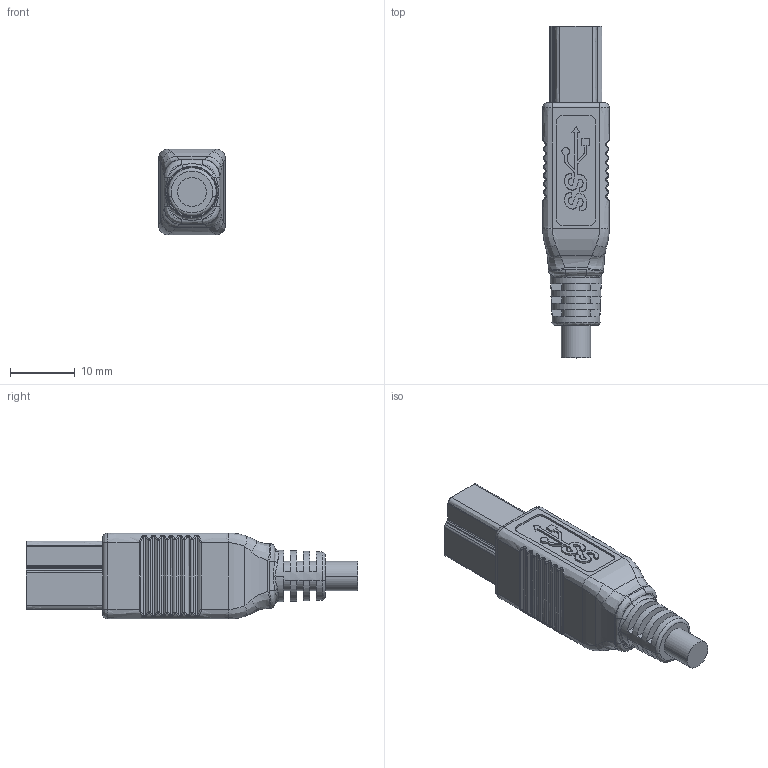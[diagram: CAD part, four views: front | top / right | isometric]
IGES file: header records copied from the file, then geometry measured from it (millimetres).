
Start section:  PTC IGES file: usb30-b.igs
Global section: file name: usb30-b.igs; native system: Creo Parametric by Parametric Technology Corporation; preprocessor: 2012130; author: LINOLIU; organization: Unknown; date: 20130401.202507; units: millimetre
Bounding box: 10.3 x 51.35 x 13.3 mm (x, y, z)
Volume: 4163.9 mm3; surface area: 2704.5 mm2
Topology: 1 solids, 1 shells, 636 faces, 1607 edges, 1004 vertices
Faces by surface type: bspline 375, extrusion 148, revolution 113
